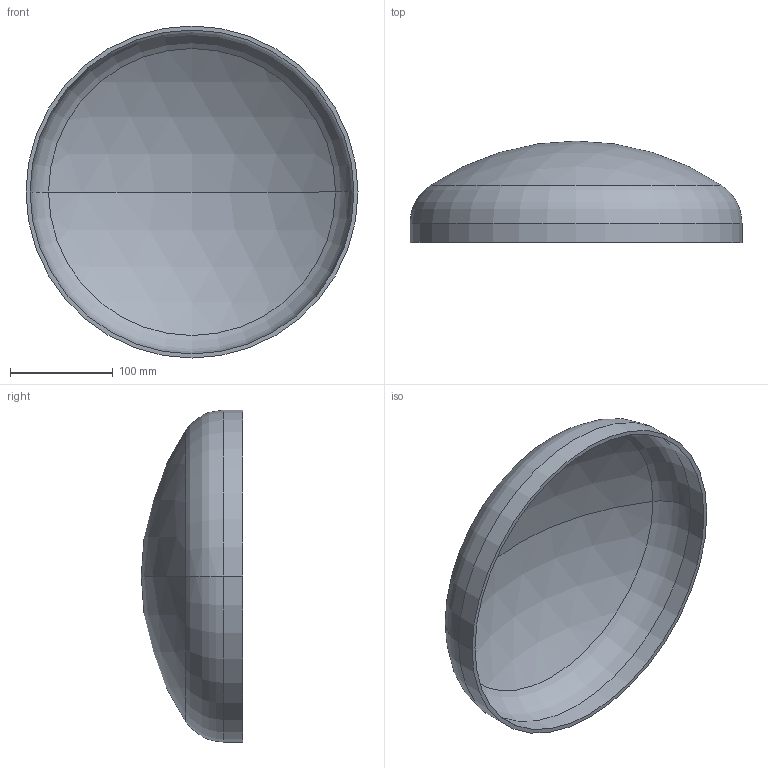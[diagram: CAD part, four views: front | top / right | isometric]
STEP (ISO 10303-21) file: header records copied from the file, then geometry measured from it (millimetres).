
FILE_DESCRIPTION (( 'STEP AP203' ), '1' );
FILE_NAME ('3D_R365_323.9x4_173374070.STEP', '2024-07-16T07:25:36', ( '' ), ( '' ), 'SwSTEP 2.0', 'SolidWorks 2024', '' );
FILE_SCHEMA (( 'CONFIG_CONTROL_DESIGN' ));
Length unit declared in the file: millimetre
Products named in the file (1): 3D_R365_323.9x4_173374070
Bounding box: 323.9 x 99 x 323.9 mm (x, y, z)
Volume: 509361.9 mm3; surface area: 258734.3 mm2
Topology: 1 solids, 1 shells, 13 faces, 24 edges, 14 vertices
Faces by surface type: sphere 4, torus 4, cylinder 4, plane 1
Entity records: 407 total; most frequent: DIRECTION 72, CARTESIAN_POINT 52, ORIENTED_EDGE 48, AXIS2_PLACEMENT_3D 34, EDGE_CURVE 24, CIRCLE 20, VERTEX_POINT 14, EDGE_LOOP 14
